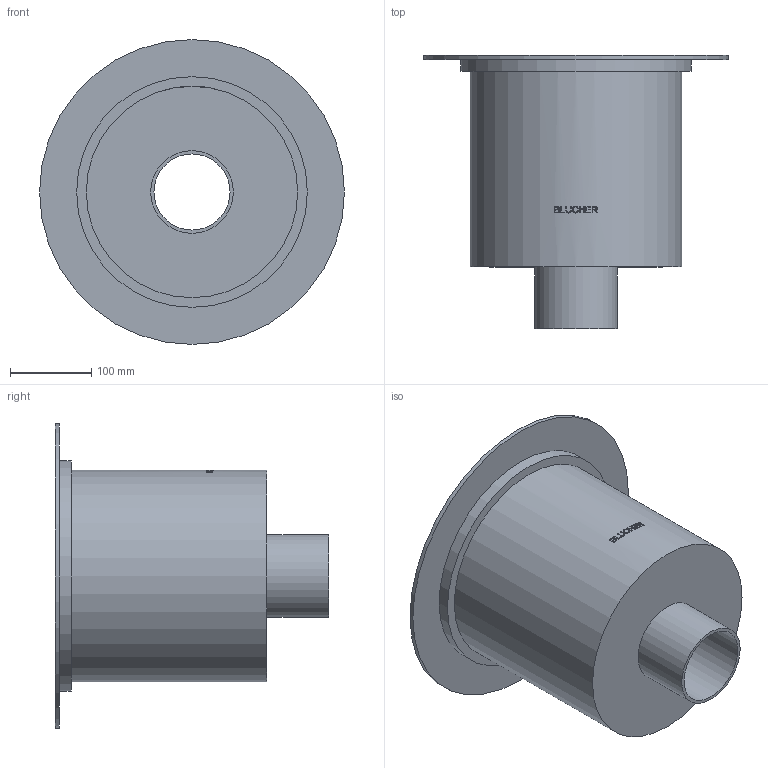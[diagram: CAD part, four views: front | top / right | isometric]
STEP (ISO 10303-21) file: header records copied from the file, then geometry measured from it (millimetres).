
FILE_DESCRIPTION((''),'2;1');
FILE_NAME('C:\Drawings\3D_CAD_Models\Blucher\BFD_Floor Drains_Complete_091119\BFD-500\WebsiteFiles\3D\STEP\BFD-534.stp','2009-11-30T09:02:36',('hofmansp'),(''),'Autodesk Inventor 2010','Autodesk Inventor 2010','');
FILE_SCHEMA(('AUTOMOTIVE_DESIGN { 1 0 10303 214 1 1 1 1 }'));
Length unit declared in the file: inch
Products named in the file (1): BFD-534
Bounding box: 375 x 336 x 375 mm (x, y, z)
Volume: 997084.5 mm3; surface area: 679200.1 mm2
Topology: 1 solids, 1 shells, 116 faces, 291 edges, 194 vertices
Faces by surface type: plane 63, bspline 34, cylinder 19
Full cylindrical faces by diameter (mm): 93.6 x1, 101.6 x1, 256 x1, 260 x1, 274.25 x1, 283.7 x1, 332 x1, 333 x1, 375 x1
Entity records: 14213 total; most frequent: CARTESIAN_POINT 11699, ORIENTED_EDGE 564, DIRECTION 388, EDGE_CURVE 282, VERTEX_POINT 194, EDGE_LOOP 144, AXIS2_PLACEMENT_3D 136, FACE_OUTER_BOUND 116
